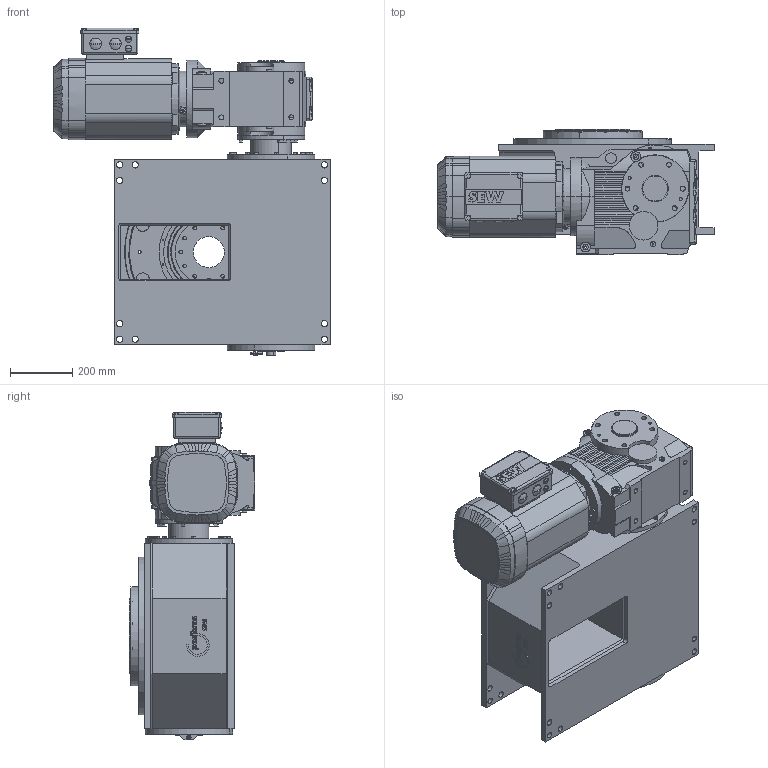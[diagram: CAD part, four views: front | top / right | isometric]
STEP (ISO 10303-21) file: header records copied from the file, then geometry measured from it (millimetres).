
FILE_DESCRIPTION (( 'STEP AP214' ), '1' );
FILE_NAME ('M510_SEW_K87DRN132MP4_E1_08.STEP', '2020-06-17T12:41:10', ( '' ), ( '' ), 'SwSTEP 2.0', 'SolidWorks 2020', '' );
FILE_SCHEMA (( 'AUTOMOTIVE_DESIGN' ));
Length unit declared in the file: millimetre
Products named in the file (1): M510_SEW_K87DRN132MP4_E1_08
Bounding box: 888.5 x 403.25 x 1054.47 mm (x, y, z)
Surface area: 3294248.3 mm2 (no closed solid volume)
Topology: 0 solids, 103 shells, 1611 faces, 5162 edges, 3579 vertices
Faces by surface type: plane 756, cylinder 540, cone 119, torus 106, bspline 74, sphere 16
Entity records: 81974 total; most frequent: CARTESIAN_POINT 18982, DIRECTION 9542, ORIENTED_EDGE 8525, EDGE_CURVE 5144, VERTEX_POINT 3579, AXIS2_PLACEMENT_3D 3379, VECTOR 2784, LINE 2784
